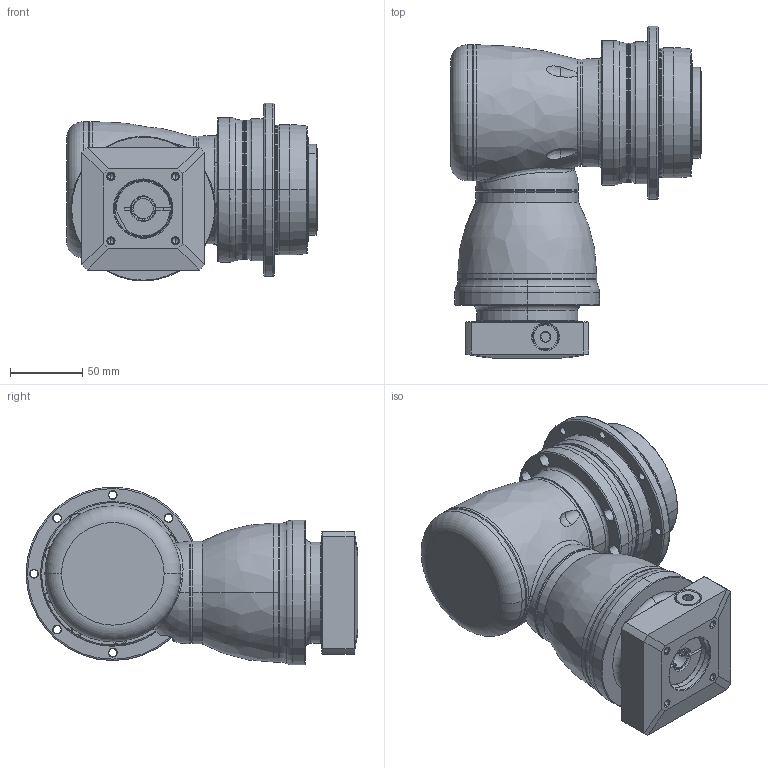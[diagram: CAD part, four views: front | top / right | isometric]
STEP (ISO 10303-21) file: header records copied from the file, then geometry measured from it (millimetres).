
FILE_DESCRIPTION((''),'2;1');
FILE_NAME('AHK090_2ST_14-P0409310101_ASM','2016-09-21T',('d01943'),(''),'PRO/ENGINEER BY PARAMETRIC TECHNOLOGY CORPORATION, 2008410','PRO/ENGINEER BY PARAMETRIC TECHNOLOGY CORPORATION, 2008410','');
FILE_SCHEMA(('CONFIG_CONTROL_DESIGN'));
Length unit declared in the file: millimetre
Products named in the file (12): P1008300002; P1802300011; P0278300003; P0359300003; P1315300001; P1007300001; P1318300101; P0503300006; P0912301201; P0409310101; 21711412017; AHK090_2ST_14-P0409310101_ASM
Assembly tree (11 placements, depth 2):
  AHK090_2ST_14-P0409310101_ASM
    P1008300002
    P1802300011
    P0278300003
    P0359300003
    P1315300001
    P1007300001
    P1318300101
    P0503300006
    P0912301201
    P0409310101
    21711412017
Bounding box: 173.5 x 229.5 x 123 mm (x, y, z)
Volume: 1386805.9 mm3; surface area: 264571.9 mm2
Topology: 12 solids, 12 shells, 913 faces, 2097 edges, 1230 vertices
Faces by surface type: cylinder 312, cone 266, plane 141, torus 130, bspline 62, sphere 2
Entity records: 34377 total; most frequent: CARTESIAN_POINT 13645, DIRECTION 4654, ORIENTED_EDGE 4046, EDGE_CURVE 2023, AXIS2_PLACEMENT_3D 2006, VERTEX_POINT 1224, CIRCLE 1132, EDGE_LOOP 1053
